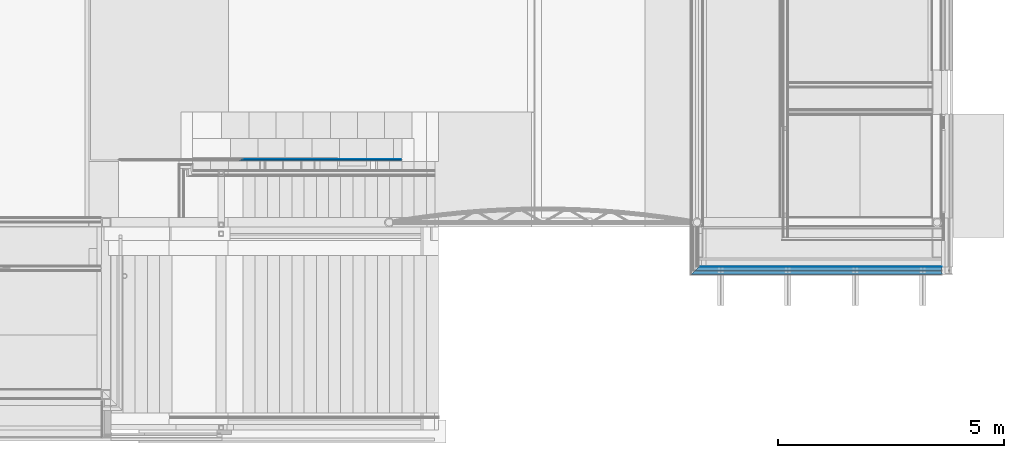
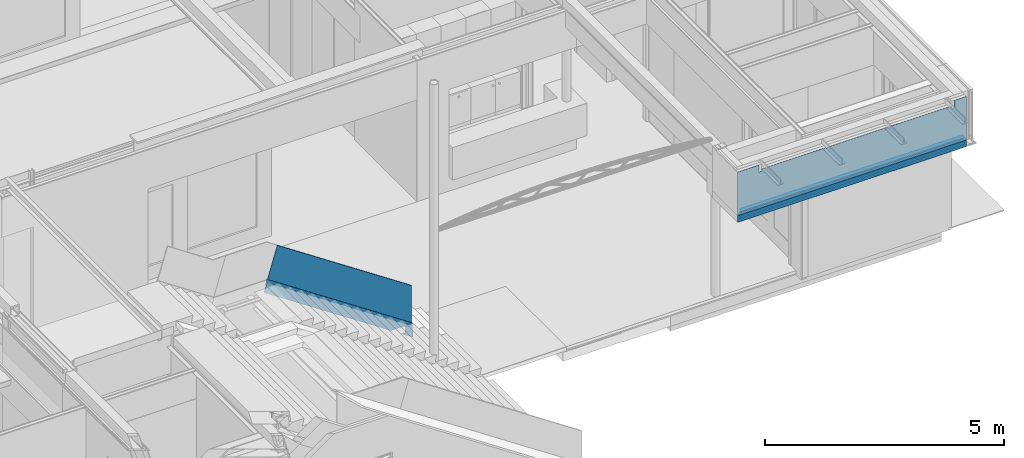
# One storey, part 62 of 165: 11 building element parts, 3 elements without a shape of their own.
"""IFC2X3 building model written with IfcOpenShell, lengths in millimetres."""

from ifc_helpers import new_model, entity, si_unit, converted_unit, derived_unit, money_unit, direction, frame, origin_with_axes, place, context, subcontext, project, spatial, faceted_brep, material, type_object, element, aggregate, save


model = new_model("IFC2X3")

# Units and contexts
model_context = context("Model", 3, precision=0.01, world=origin_with_axes(), true_north=direction((0.0, 1.0)))
body_context = subcontext(model_context, "Body", "Model", "MODEL_VIEW")
ifc_project = project(units=[si_unit("LENGTHUNIT", "METRE", prefix="MILLI"), si_unit("AREAUNIT", "SQUARE_METRE"), si_unit("VOLUMEUNIT", "CUBIC_METRE"), converted_unit("PLANEANGLEUNIT", "DEGREE", entity("IfcPlaneAngleMeasure", 0.0174532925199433), si_unit("PLANEANGLEUNIT", "RADIAN"), dimensions=[0, 0, 0, 0, 0, 0, 0]), money_unit("EUR"), converted_unit("TIMEUNIT", "Year", entity("IfcTimeMeasure", 31556926.0), si_unit("TIMEUNIT", "SECOND"), dimensions=[0, 0, 1, 0, 0, 0, 0]), si_unit("MASSUNIT", "GRAM", prefix="KILO"), si_unit("THERMODYNAMICTEMPERATUREUNIT", "DEGREE_CELSIUS"), si_unit("LUMINOUSINTENSITYUNIT", "LUMEN"), si_unit("ENERGYUNIT", "JOULE", prefix="MEGA"), derived_unit("THERMALCONDUCTANCEUNIT", [(si_unit("POWERUNIT", "WATT"), 1), (si_unit("LENGTHUNIT", "METRE"), -1), (si_unit("THERMODYNAMICTEMPERATUREUNIT", "KELVIN"), -1)]), derived_unit("SPECIFICHEATCAPACITYUNIT", [(si_unit("ENERGYUNIT", "JOULE"), 1), (si_unit("MASSUNIT", "GRAM", prefix="KILO"), -1), (si_unit("THERMODYNAMICTEMPERATUREUNIT", "KELVIN"), -1)]), derived_unit("MASSDENSITYUNIT", [(si_unit("MASSUNIT", "GRAM", prefix="KILO"), 1), (si_unit("VOLUMEUNIT", "CUBIC_METRE"), -1)])], contexts=[model_context])

# Site, building, storey
site_placement = place(None, origin_with_axes())
site = spatial("IfcSite", under=ifc_project, at=site_placement, Name="Site", CompositionType="ELEMENT")
building_placement = place(site_placement, origin_with_axes())
building = spatial("IfcBuilding", under=site, at=building_placement, Name="Naam gebouw", CompositionType="ELEMENT")
storey_placement = place(building_placement, origin_with_axes())
storey = spatial("IfcBuildingStorey", under=building, at=storey_placement, Name="Begane grond", CompositionType="ELEMENT", Elevation=0.0)

# Beam, building element parts
beam_type_1 = type_object("IfcBeamType", Name="41 Overgang stucwerk wand-plafond 176 x 176", PredefinedType="BEAM")
beam_1_placement = place(storey_placement, frame((24539.99877127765, 3599.999999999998, 2756.0), z_axis=(0.0, 0.0, 1.0), x_axis=(0.0, -1.0, 0.0)))
beam_1 = element("IfcBeam", 1, at=beam_1_placement, inside=storey, type_object=beam_type_1, Name="_Regenwaterafvoer-x", ObjectType="BEAM")
ifc_material_1 = material(Name="STO pleisterlaag")
building_element_part_1_placement = place(beam_1_placement, origin_with_axes())
building_element_part_1 = element("IfcBuildingElementPart", 2, at=building_element_part_1_placement, material=ifc_material_1, Name="STO pleisterlaag", context=body_context, shape_type="Brep", body=[
    faceted_brep([(173.0000000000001, 5360.00123095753, -173.0000000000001), (0.0, 5360.00123095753, -173.0000000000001), (0.0, 0.0, -173.0000000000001), (173.0000000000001, -173.0000000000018, -173.0000000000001), (173.0000000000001, 5360.00123095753, 0.0), (175.9999999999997, 5360.00123095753, 0.0), (175.9999999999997, 5360.00123095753, -176.0000000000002), (0.0, 5360.00123095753, -176.0000000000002), (0.0, 0.0, -176.0000000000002), (176.0000000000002, -176.0000000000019, -176.0000000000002), (176.0000000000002, -176.0000000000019, 0.0), (173.0000000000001, -173.0000000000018, 0.0)], [[[0, 1, 2, 3]], [[0, 4, 5, 6, 7, 1]], [[1, 7, 8, 2]], [[3, 2, 8, 9, 10, 11]], [[4, 0, 3, 11]], [[5, 4, 11, 10]], [[6, 5, 10, 9]], [[7, 6, 9, 8]]]),
])
ifc_material_2 = material(Name="STO weefsellaag")
building_element_part_2_placement = place(beam_1_placement, origin_with_axes())
building_element_part_2 = element("IfcBuildingElementPart", 3, at=building_element_part_2_placement, material=ifc_material_2, Name="STO weefsellaag", context=body_context, shape_type="Brep", body=[
    faceted_brep([(0.0, 5360.00123095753, -167.9999992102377), (0.0, 5360.00123095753, -173.0000000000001), (0.0, 0.0, -173.0000000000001), (0.0, 0.0, -167.9999992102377), (167.9999992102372, 5360.00123095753, -167.9999992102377), (167.9999992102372, 5360.00123095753, 0.0), (172.9999999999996, 5360.00123095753, 0.0), (172.9999999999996, 5360.00123095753, -173.0000000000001), (173.0000000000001, -173.0000000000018, -173.0000000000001), (173.0000000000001, -173.0000000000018, 0.0), (167.9999992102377, -167.9999992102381, 0.0), (167.9999992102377, -167.9999992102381, -167.9999992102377)], [[[0, 1, 2, 3]], [[0, 4, 5, 6, 7, 1]], [[1, 7, 8, 2]], [[3, 2, 8, 9, 10, 11]], [[4, 0, 3, 11]], [[5, 4, 11, 10]], [[6, 5, 10, 9]], [[7, 6, 9, 8]]]),
])
ifc_material_3 = material(Name="STO lijmlaag")
building_element_part_3_placement = place(beam_1_placement, origin_with_axes())
building_element_part_3 = element("IfcBuildingElementPart", 4, at=building_element_part_3_placement, material=ifc_material_3, Name="STO lijmlaag", context=body_context, shape_type="Brep", body=[
    faceted_brep([(0.0, 5360.00123095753, -88.00000107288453), (88.00000107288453, 5360.00123095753, -88.00000107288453), (88.00000107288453, -88.00000107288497, -88.00000107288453), (0.0, 0.0, -88.00000107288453), (0.0, 5360.00123095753, -84.00000000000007), (83.99999999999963, 5360.00123095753, -84.00000000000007), (83.99999999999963, 5360.00123095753, 0.0), (88.00000107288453, 5360.00123095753, 0.0), (88.00000107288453, -88.00000107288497, 0.0), (84.00000000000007, -83.99999999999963, 0.0), (84.00000000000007, -83.99999999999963, -84.00000000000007), (0.0, 0.0, -84.00000000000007)], [[[0, 1, 2, 3]], [[0, 4, 5, 6, 7, 1]], [[1, 7, 8, 2]], [[3, 2, 8, 9, 10, 11]], [[4, 0, 3, 11]], [[5, 4, 11, 10]], [[6, 5, 10, 9]], [[7, 6, 9, 8]]]),
])
ifc_material_4 = material(Name="Isolatie - STO EPS")
building_element_part_4_placement = place(beam_1_placement, origin_with_axes())
building_element_part_4 = element("IfcBuildingElementPart", 5, at=building_element_part_4_placement, material=ifc_material_4, Name="Isolatie - STO EPS", context=body_context, shape_type="Brep", body=[
    faceted_brep([(0.0, 5360.00123095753, -88.00000107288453), (0.0, 5360.00123095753, -168.0000000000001), (0.0, 0.0, -168.0000000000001), (0.0, 0.0, -88.00000107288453), (88.00000107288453, 5360.00123095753, -88.00000107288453), (88.00000107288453, 5360.00123095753, -168.0000000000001), (88.00000107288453, -88.00000107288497, -168.0000000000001), (88.00000107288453, -88.00000107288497, -88.00000107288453)], [[[0, 1, 2, 3]], [[0, 4, 5, 1]], [[1, 5, 6, 2]], [[3, 2, 6, 7]], [[4, 0, 3, 7]], [[5, 4, 7, 6]]]),
])
building_element_part_5_placement = place(beam_1_placement, origin_with_axes())
building_element_part_5 = element("IfcBuildingElementPart", 6, at=building_element_part_5_placement, material=ifc_material_4, Name="Isolatie - STO EPS", context=body_context, shape_type="Brep", body=[
    faceted_brep([(167.9999999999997, 5360.00123095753, 0.0), (87.99999999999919, 5360.00123095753, 0.0), (87.99999999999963, -88.00000000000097, 0.0), (168.0000000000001, -168.0000000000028, 0.0), (167.9999999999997, 5360.00123095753, -168.0000000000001), (87.99999999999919, 5360.00123095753, -168.0000000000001), (87.99999999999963, -88.00000000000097, -168.0000000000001), (168.0000000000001, -168.0000000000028, -168.0000000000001)], [[[0, 1, 2, 3]], [[0, 4, 5, 1]], [[1, 5, 6, 2]], [[3, 2, 6, 7]], [[4, 0, 3, 7]], [[5, 4, 7, 6]]]),
])
building_element_part_6_placement = place(beam_1_placement, origin_with_axes())
building_element_part_6 = element("IfcBuildingElementPart", 7, at=building_element_part_6_placement, material=ifc_material_3, Name="STO lijmlaag", context=body_context, shape_type="Brep", body=[
    faceted_brep([(3.999999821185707, 5360.00123095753, 0.0), (0.0, 5360.00123095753, 0.0), (0.0, 0.0, 0.0), (3.999999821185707, -3.999999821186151, 0.0), (3.999999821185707, 5360.00123095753, -3.999999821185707), (0.0, 5360.00123095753, -3.999999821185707), (0.0, 0.0, -3.999999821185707), (3.999999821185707, -3.999999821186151, -3.999999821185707)], [[[0, 1, 2, 3]], [[0, 4, 5, 1]], [[1, 5, 6, 2]], [[3, 2, 6, 7]], [[4, 0, 3, 7]], [[5, 4, 7, 6]]]),
])
building_element_part_7_placement = place(beam_1_placement, origin_with_axes())
building_element_part_7 = element("IfcBuildingElementPart", 8, at=building_element_part_7_placement, material=ifc_material_4, Name="Isolatie - STO EPS", context=body_context, shape_type="Brep", body=[
    faceted_brep([(0.0, 5360.00123095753, -3.999999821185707), (0.0, 5360.00123095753, -84.00000000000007), (0.0, 0.0, -84.00000000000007), (0.0, 0.0, -3.999999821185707), (3.999999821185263, 5360.00123095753, -3.999999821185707), (3.999999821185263, 5360.00123095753, 0.0), (83.99999999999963, 5360.00123095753, 0.0), (83.99999999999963, 5360.00123095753, -84.00000000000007), (84.00000000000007, -83.99999999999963, -84.00000000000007), (84.00000000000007, -83.99999999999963, 0.0), (3.999999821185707, -3.999999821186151, 0.0), (3.999999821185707, -3.999999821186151, -3.999999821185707)], [[[0, 1, 2, 3]], [[0, 4, 5, 6, 7, 1]], [[1, 7, 8, 2]], [[3, 2, 8, 9, 10, 11]], [[4, 0, 3, 11]], [[5, 4, 11, 10]], [[6, 5, 10, 9]], [[7, 6, 9, 8]]]),
])
aggregate(beam_1, [building_element_part_1, building_element_part_2, building_element_part_3, building_element_part_4, building_element_part_5, building_element_part_6, building_element_part_7])

# Wall, building element part
wall_type = type_object("IfcWallType", Name="21 STO Buitengevelisolatie 160 390", PredefinedType="NOTDEFINED")
wall_placement = place(storey_placement, frame((29899.99999999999, 3599.999999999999, 2610.0), z_axis=(0.0, 0.0, 1.0), x_axis=(-1.0, 0.0, 0.0)))
wall = element("IfcWall", 9, at=wall_placement, inside=storey, type_object=wall_type, Name="21_Wand-x")
building_element_part_8_placement = place(wall_placement, origin_with_axes())
building_element_part_8 = element("IfcBuildingElementPart", 10, at=building_element_part_8_placement, material=ifc_material_2, Name="STO weefsellaag", context=body_context, shape_type="Brep", body=[
    faceted_brep([(0.0, 172.9999985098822, 1250.0), (-2.235182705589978e-06, 173.0000000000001, 145.9999999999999), (-2.235182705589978e-06, 167.9999992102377, 145.9999999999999), (0.0, 167.9999997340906, 1250.0), (5533.000960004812, 173.0000000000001, 1249.999999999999), (5533.001228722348, 173.0000000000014, 145.9999999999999), (286.9998248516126, 173.0000000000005, 1249.999999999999), (286.9998248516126, 173.0000000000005, 1067.0), (349.9998248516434, 173.0000000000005, 1067.0), (350.0000000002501, 173.0000000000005, 1110.000000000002), (490.0000000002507, 173.0000000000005, 1110.000000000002), (490.0000000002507, 173.0000000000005, 1125.000000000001), (427.5000000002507, 173.0000000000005, 1125.000000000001), (427.5000000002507, 173.0000000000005, 1130.0), (1897.50000000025, 173.0000000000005, 1130.0), (1897.50000000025, 173.0000000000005, 1125.000000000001), (1835.00000000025, 173.0000000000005, 1125.000000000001), (1835.00000000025, 173.0000000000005, 1110.000000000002), (1975.00000000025, 173.0000000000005, 1110.000000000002), (1975.00000000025, 173.0000000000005, 1125.000000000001), (1912.50000000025, 173.0000000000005, 1125.000000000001), (1912.50000000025, 173.0000000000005, 1130.0), (3387.500961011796, 173.0000000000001, 1130.0), (3387.500961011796, 173.0000000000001, 1125.000000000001), (3325.000961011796, 173.0000000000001, 1125.000000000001), (3325.000961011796, 173.0000000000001, 1110.000000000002), (3465.000961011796, 173.0000000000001, 1110.000000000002), (3465.000961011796, 173.0000000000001, 1125.000000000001), (3402.500961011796, 173.0000000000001, 1125.000000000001), (3402.500961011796, 173.0000000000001, 1130.0), (4872.500960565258, 173.0000000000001, 1130.0), (4872.500960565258, 173.0000000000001, 1125.000000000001), (4810.000960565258, 173.0000000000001, 1125.000000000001), (4810.000960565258, 173.0000000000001, 1110.000000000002), (4950.000960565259, 173.0000000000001, 1110.000000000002), (4950.000960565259, 173.0000000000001, 1067.0), (5013.000960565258, 173.0000000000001, 1067.0), (5013.000960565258, 173.0000000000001, 1249.999999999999), (5533.001228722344, 168.0000000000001, 145.9999999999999), (5528.001227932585, 167.999999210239, 145.9999999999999), (5533.000960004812, 168.0000000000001, 1249.999999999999), (5013.000960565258, 168.0000000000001, 1249.999999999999), (5013.000960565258, 168.0000000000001, 1067.0), (4950.000960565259, 168.0000000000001, 1067.0), (4950.000960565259, 168.0000000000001, 1110.000000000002), (4810.000960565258, 168.0000000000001, 1110.000000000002), (4810.000960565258, 168.0000000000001, 1125.000000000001), (4872.500960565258, 168.0000000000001, 1125.000000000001), (4872.500960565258, 168.0000000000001, 1130.0), (3402.500961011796, 168.0000000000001, 1130.0), (3402.500961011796, 168.0000000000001, 1125.000000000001), (3465.000961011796, 168.0000000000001, 1125.000000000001), (3465.000961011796, 168.0000000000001, 1110.000000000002), (3325.000961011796, 168.0000000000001, 1110.000000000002), (3325.000961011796, 168.0000000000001, 1125.000000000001), (3387.500961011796, 168.0000000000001, 1125.000000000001), (3387.500961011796, 168.0000000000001, 1130.0), (1912.50000000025, 168.0000000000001, 1130.0), (1912.50000000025, 168.0000000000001, 1125.000000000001), (1975.00000000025, 168.0000000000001, 1125.000000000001), (1975.00000000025, 168.0000000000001, 1110.000000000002), (1835.00000000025, 168.0000000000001, 1110.000000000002), (1835.00000000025, 168.0000000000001, 1125.000000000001), (1897.50000000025, 168.0000000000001, 1125.000000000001), (1897.50000000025, 168.0000000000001, 1130.0), (427.5000000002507, 168.0000000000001, 1130.0), (427.5000000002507, 168.0000000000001, 1125.000000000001), (490.0000000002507, 168.0000000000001, 1125.000000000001), (490.0000000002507, 168.0000000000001, 1110.000000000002), (350.0000000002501, 168.0000000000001, 1110.000000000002), (349.9998299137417, 168.0000000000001, 1067.0), (286.9998299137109, 168.0000000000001, 1067.0), (286.9998299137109, 168.0000000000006, 1249.999999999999)], [[[0, 1, 2, 3]], [[4, 5, 1, 0, 6, 7, 8, 9, 10, 11, 12, 13, 14, 15, 16, 17, 18, 19, 20, 21, 22, 23, 24, 25, 26, 27, 28, 29, 30, 31, 32, 33, 34, 35, 36, 37]], [[38, 39, 2, 1, 5]], [[3, 2, 39, 38, 40, 41, 42, 43, 44, 45, 46, 47, 48, 49, 50, 51, 52, 53, 54, 55, 56, 57, 58, 59, 60, 61, 62, 63, 64, 65, 66, 67, 68, 69, 70, 71, 72]], [[3, 72, 6, 0]], [[4, 40, 38, 5]], [[71, 7, 6, 72]], [[70, 8, 7, 71]], [[69, 9, 8, 70]], [[9, 69, 68, 10]], [[68, 67, 11, 10]], [[67, 66, 12, 11]], [[66, 65, 13, 12]], [[13, 65, 64, 14]], [[14, 64, 63, 15]], [[63, 62, 16, 15]], [[62, 61, 17, 16]], [[61, 60, 18, 17]], [[60, 59, 19, 18]], [[59, 58, 20, 19]], [[58, 57, 21, 20]], [[56, 22, 21, 57]], [[22, 56, 55, 23]], [[55, 54, 24, 23]], [[54, 53, 25, 24]], [[53, 52, 26, 25]], [[52, 51, 27, 26]], [[51, 50, 28, 27]], [[50, 49, 29, 28]], [[48, 30, 29, 49]], [[30, 48, 47, 31]], [[47, 46, 32, 31]], [[46, 45, 33, 32]], [[45, 44, 34, 33]], [[34, 44, 43, 35]], [[36, 35, 43, 42]], [[37, 36, 42, 41]], [[40, 4, 37, 41]]]),
    faceted_brep([(4887.500960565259, 173.0000000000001, 1130.0), (4887.500960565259, 168.0000000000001, 1130.0), (4950.000960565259, 168.0000000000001, 1130.0), (4950.000960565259, 173.0000000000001, 1130.0), (4887.500960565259, 168.0000000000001, 1125.000000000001), (4887.500960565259, 173.0000000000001, 1125.000000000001), (4950.000960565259, 168.0000000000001, 1125.000000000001), (4950.000960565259, 173.0000000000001, 1125.000000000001)], [[[0, 1, 2, 3]], [[4, 1, 0, 5]], [[4, 6, 2, 1]], [[6, 7, 3, 2]], [[5, 0, 3, 7]], [[6, 4, 5, 7]]]),
    faceted_brep([(350.0000000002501, 173.0000000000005, 1125.000000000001), (350.0000000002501, 168.0000000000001, 1125.000000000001), (350.0000000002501, 168.0000000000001, 1130.0), (350.0000000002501, 173.0000000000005, 1130.0), (412.5000000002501, 168.0000000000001, 1125.000000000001), (412.5000000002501, 173.0000000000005, 1125.000000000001), (412.5000000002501, 168.0000000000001, 1130.0), (412.5000000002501, 173.0000000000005, 1130.0)], [[[0, 1, 2, 3]], [[4, 1, 0, 5]], [[4, 6, 2, 1]], [[6, 7, 3, 2]], [[5, 0, 3, 7]], [[7, 6, 4, 5]]]),
])
aggregate(wall, [building_element_part_8])

# Beam, building element parts
beam_type_2 = type_object("IfcBeamType", Name="34 Glas balustrade binnen 50 x 1800", PredefinedType="BEAM")
beam_2_placement = place(storey_placement, frame((17980.00001687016, 5930.000235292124, 719.9999999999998), z_axis=(0.0, 0.0, 1.0), x_axis=(1.118256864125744e-08, 1.0, 0.0)))
beam_2 = element("IfcBeam", 11, at=beam_2_placement, inside=storey, type_object=beam_type_2, Name="_Regenwaterafvoer-x", ObjectType="BEAM")
ifc_material_5 = material(Name="Metaal - Staal C")
building_element_part_9_placement = place(beam_2_placement, origin_with_axes())
building_element_part_9 = element("IfcBuildingElementPart", 12, at=building_element_part_9_placement, material=ifc_material_5, Name="Metaal - Staal C", context=body_context, shape_type="Brep", body=[
    faceted_brep([(44.99996524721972, 25.98076084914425, -120.8913740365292), (44.99996524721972, 25.98076084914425, -96.85436553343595), (44.99800116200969, 3538.763683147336, 2244.999999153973), (44.99800116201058, 3544.819195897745, 2224.999999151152), (44.99800116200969, 207.3191971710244, 0.0), (44.99800116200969, 180.0000005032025, 0.0), (44.99800116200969, 180.0000005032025, -18.21279777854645), (45.52328604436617, 25.6143277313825, 17.07621848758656), (44.99996524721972, 25.98076084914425, 17.32142407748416), (44.99996524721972, 25.98076084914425, -79.10303510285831), (44.99996524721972, 25.98076084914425, -84.83586128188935), (44.99996524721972, 25.98076084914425, -132.9098782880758), (44.99996524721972, 25.98076084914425, -162.6794919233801), (45.52328604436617, 25.6143277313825, -162.9237806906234), (19.73936080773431, 28.19077576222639, -95.38193910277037), (14.99996524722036, 25.98075895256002, -96.85526741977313), (14.99999999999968, 3538.763685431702, 2245.000000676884), (40.26056940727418, 28.1907770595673, -95.38193823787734), (35.20941035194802, 29.54423070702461, -94.47963580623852), (29.99996499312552, 29.99999778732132, -94.1757910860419), (25.80636152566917, 29.63310475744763, -94.42038643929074), (24.79051969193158, 29.54423004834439, -94.47963624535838), (44.99800116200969, 3535.73592677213, 2254.999999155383), (44.99800116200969, 3534.291687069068, 2259.769998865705), (44.99800116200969, 3509.999997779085, 2339.999998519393), (54.99800116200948, 3509.99999701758, 2339.999998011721), (54.99800116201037, 3555.416342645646, 2189.999997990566), (44.99800116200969, 3555.416343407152, 2189.999998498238), (44.99800116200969, 3547.846952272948, 2214.999999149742), (15.00000000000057, 3547.846954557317, 2215.000000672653), (14.99999999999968, 3600.832691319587, 2039.999999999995), (4.999999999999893, 3600.832692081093, 2040.000000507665), (4.999999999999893, 3510.000000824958, 2340.000000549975), (15.00000000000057, 3510.000000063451, 2340.000000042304), (14.99999940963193, 3534.291689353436, 2259.770000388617), (15.00000000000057, 3535.735929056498, 2255.000000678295), (15.00000000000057, 3544.819198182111, 2225.000000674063), (14.99999999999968, 207.3191971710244, 0.0), (44.99800116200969, 270.4163456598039, 0.0), (54.99800116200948, 270.4163456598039, 0.0), (54.99800116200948, 180.0000006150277, 0.0), (14.99999999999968, 180.0000001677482, 0.0), (4.999999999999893, 180.0000000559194, 0.0), (4.999999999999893, 540.8326913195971, 0.0), (14.99999999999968, 540.8326913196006, 0.0), (14.99999999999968, 225.3469535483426, 0.0), (44.99800116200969, 225.3469535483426, 0.0), (54.99800116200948, 180.0000006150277, -60.27756336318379), (44.99800116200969, 180.0000005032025, -60.27756343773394), (44.99800116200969, 180.0000005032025, -30.23130203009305), (14.99999999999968, 180.0000001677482, -30.23130225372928), (14.99999999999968, 180.0000001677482, -179.9999999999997), (4.999999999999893, 180.0000000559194, -179.9999999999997), (14.99999999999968, 180.0000001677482, -18.21279800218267), (40.26056940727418, 28.1907770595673, -119.4189467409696), (14.99996524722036, 25.98075895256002, -120.8922759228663), (19.73936080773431, 28.19077576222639, -119.4189476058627), (24.79051969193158, 29.54423004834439, -118.5166447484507), (25.80636152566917, 29.63310475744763, -118.457394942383), (29.99996499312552, 29.99999778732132, -118.2127995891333), (35.20941035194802, 29.54423070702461, -118.5166443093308), (54.14996577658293, 17.61459857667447, 11.74306571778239), (54.99800116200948, 16.40347869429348, 10.93565246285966), (49.28359372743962, 22.98133229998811, 15.32088819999), (50.91447904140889, 21.35044719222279, 14.23363146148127), (52.69354244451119, 19.57138401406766, 13.04758934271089), (52.98129896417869, 19.28362753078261, 12.85575168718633), (53.78307297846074, 18.13857572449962, 12.09238381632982), (40.26056940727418, 28.1907770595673, -83.36343398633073), (40.26056940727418, 28.1907770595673, -131.4374509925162), (44.99800116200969, 0.0, -180.2775637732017), (44.99800116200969, 0.0, -179.9999991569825), (54.99800116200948, 0.0, -179.9999995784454), (54.99800116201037, 16.40347869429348, -169.0643471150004), (54.14996577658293, 17.61459857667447, -168.256933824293), (53.78307297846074, 18.13857572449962, -167.9076157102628), (52.98129896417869, 19.28362753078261, -167.1442478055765), (52.69354244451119, 19.57138401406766, -166.9524101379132), (50.91447904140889, 21.35044719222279, -165.7663679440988), (49.28359372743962, 22.98133229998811, -164.6791111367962), (19.73936080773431, 28.19077576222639, -83.36343485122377), (14.99996524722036, 25.98075895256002, -84.83676316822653), (35.20941035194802, 29.54423070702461, -82.46113155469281), (29.99996499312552, 29.99999778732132, -82.1572868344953), (25.80636152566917, 29.63310475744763, -82.40188218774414), (24.79051969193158, 29.54423004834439, -82.46113199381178), (54.99800116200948, 0.0, -180.2775637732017), (4.999999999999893, 16.40071843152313, -169.0661851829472), (4.999999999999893, 16.40071843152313, 10.93381228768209), (4.999999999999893, 270.8326913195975, -180.0000000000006), (4.999999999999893, 0.8326913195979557, -360.0000000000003), (4.999999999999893, 0.0, -360.0000000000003), (4.999999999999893, 0.0, -179.9999974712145), (10.71633714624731, 22.98132986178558, 15.32088657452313), (14.99996524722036, 25.98075895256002, 17.32052219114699), (5.849965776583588, 17.61459552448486, 11.74306368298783), (6.216858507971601, 18.13857271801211, 12.092381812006), (7.018632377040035, 19.28362462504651, 12.85574975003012), (9.085452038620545, 21.35044454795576, 14.2336296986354), (14.99996524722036, 25.98075895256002, -79.10393726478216), (19.73936080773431, 28.19077576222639, -131.4374518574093), (14.99996524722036, 25.98075895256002, -132.9107801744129), (35.20941035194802, 29.54423070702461, -130.5351485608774), (29.99996499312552, 29.99999778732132, -130.2313038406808), (25.80636152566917, 29.63310475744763, -130.4758991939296), (24.79051969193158, 29.54423004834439, -130.5351489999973), (14.99996524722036, 25.98075895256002, -162.6794919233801), (14.99999999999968, 0.0, -179.9999978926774), (14.99999999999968, 0.0, -360.0000000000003), (14.99999999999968, 0.8326913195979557, -360.0000000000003), (14.99999999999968, 270.8326913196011, -180.0000000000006), (10.71633714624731, 22.98132986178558, -164.6791111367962), (5.849965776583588, 17.61459552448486, -168.2569338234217), (9.085452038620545, 21.35044454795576, -165.7663679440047), (7.018632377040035, 19.28362462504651, -167.1442478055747), (6.216858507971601, 18.13857271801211, -167.9076157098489)], [[[0, 1, 2, 3, 4, 5, 6]], [[7, 8, 9, 10, 1, 0, 11, 12, 13]], [[14, 15, 16, 2, 1, 17, 18, 19, 20, 21]], [[22, 23, 24, 25, 26, 27, 28, 29, 30, 31, 32, 33, 34, 35], [2, 16, 36, 3]], [[36, 37, 4, 3]], [[38, 39, 40, 5, 4, 37, 41, 42, 43, 44, 45, 46]], [[5, 40, 47, 48, 49, 50, 51, 52, 42, 41, 53, 6]], [[54, 0, 6, 53, 55, 56, 57, 58, 59, 60]], [[61, 62, 25, 24, 8, 7, 63, 64, 65, 66, 67]], [[9, 8, 24, 23]], [[10, 9, 23, 22]], [[10, 68, 17, 1]], [[0, 54, 69, 11]], [[12, 11, 49, 48, 70, 71]], [[71, 72, 73, 74, 75, 76, 77, 78, 79, 13, 12]], [[63, 7, 13, 79]], [[80, 81, 15, 14]], [[15, 55, 53, 41, 37, 36, 16]], [[68, 82, 18, 17]], [[82, 83, 19, 18]], [[83, 84, 20, 19]], [[84, 85, 21, 20]], [[85, 80, 14, 21]], [[62, 73, 72, 86, 47, 40, 39, 26, 25]], [[26, 39, 38, 27]], [[27, 38, 46, 28]], [[28, 46, 45, 29]], [[29, 45, 44, 30]], [[30, 44, 43, 31]], [[87, 88, 32, 31, 43, 42, 52, 89, 90, 91, 92]], [[93, 94, 33, 32, 88, 95, 96, 97, 98]], [[94, 99, 34, 33]], [[99, 81, 35, 34]], [[68, 10, 22, 35, 81, 80, 85, 84, 83, 82]], [[70, 48, 47, 86]], [[100, 101, 50, 49, 11, 69, 102, 103, 104, 105]], [[106, 107, 108, 109, 110, 51, 50, 101]], [[52, 51, 110, 89]], [[56, 55, 101, 100]], [[57, 56, 100, 105]], [[58, 57, 105, 104]], [[59, 58, 104, 103]], [[60, 59, 103, 102]], [[54, 60, 102, 69]], [[73, 62, 61, 74]], [[64, 63, 79, 78]], [[65, 64, 78, 77]], [[66, 65, 77, 76]], [[67, 66, 76, 75]], [[61, 67, 75, 74]], [[72, 71, 70, 86]], [[94, 93, 111, 106, 101, 55, 15, 81, 99]], [[95, 88, 87, 112]], [[90, 89, 110, 109]], [[91, 90, 109, 108]], [[107, 92, 91, 108]], [[92, 107, 106, 111, 113, 114, 115, 112, 87]], [[96, 95, 112, 115]], [[97, 96, 115, 114]], [[98, 97, 114, 113]], [[93, 98, 113, 111]]]),
])
ifc_material_6 = material(Name="Glas")
building_element_part_10_placement = place(beam_2_placement, origin_with_axes())
building_element_part_10 = element("IfcBuildingElementPart", 13, at=building_element_part_10_placement, material=ifc_material_6, Name="Glas", context=body_context, shape_type="Brep", body=[
    faceted_brep([(39.99999940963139, 28.26059656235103, 18.84039770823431), (40.26056940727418, 28.1907770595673, 18.79385137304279), (44.99996524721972, 25.98076084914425, 17.32142407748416), (44.99800116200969, 3509.999997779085, 2339.999998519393), (39.99999940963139, 3509.999998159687, 2339.999998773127), (39.99999940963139, 28.26059656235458, -77.58406147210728), (40.26056940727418, 28.1907770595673, -77.6306078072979), (44.99996524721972, 25.98076084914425, -79.10303510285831), (44.99800116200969, 3534.291687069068, 2259.769998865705), (39.99999940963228, 3534.29168744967, 2259.769999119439)], [[[0, 1, 2, 3, 4]], [[1, 0, 5, 6]], [[2, 1, 6, 7]], [[2, 7, 8, 3]], [[8, 9, 4, 3]], [[5, 0, 4, 9]], [[6, 5, 9, 8, 7]]]),
])
building_element_part_11_placement = place(beam_2_placement, origin_with_axes())
building_element_part_11 = element("IfcBuildingElementPart", 14, at=building_element_part_11_placement, material=ifc_material_6, Name="Glas", context=body_context, shape_type="Brep", body=[
    faceted_brep([(39.99999585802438, 28.26059751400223, 963.5167154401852), (39.99999585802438, 28.26059751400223, 18.84040034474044), (39.99999585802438, 3509.999997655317, 2340.000000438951), (39.99999585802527, 3272.012805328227, 3126.018302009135), (38.25975153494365, 28.72689445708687, 962.8522916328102), (35.20941035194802, 29.54423070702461, 962.4148661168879), (35.20941035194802, 29.54423070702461, -76.72830537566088), (39.99999585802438, 28.26059751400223, -77.58406083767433), (39.99999585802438, 3534.291687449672, 2259.76999911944), (38.25954716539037, 3272.258533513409, 3125.206717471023), (19.99999211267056, 3534.291688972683, 2259.770000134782), (19.99999211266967, 3509.999999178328, 2340.000001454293), (19.99999211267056, 3272.012872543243, 3126.018086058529), (21.73997424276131, 3272.258534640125, 3125.206718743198), (25.80615720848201, 3272.588417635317, 3124.117187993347), (29.99976069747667, 3272.699503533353, 3123.750294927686), (34.19336418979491, 3272.588417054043, 3124.117187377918), (34.19356850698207, 29.63310528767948, 962.146979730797), (29.99996499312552, 29.99999778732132, -76.42446065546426), (29.99996499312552, 29.99999778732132, 961.9506246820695), (24.79051969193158, 29.54423004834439, -76.72830581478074), (19.99999211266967, 28.26061172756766, -77.58405136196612), (25.80636152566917, 29.63310475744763, -76.6690560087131), (19.99999211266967, 28.26061172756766, 18.84040982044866), (19.99999211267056, 28.26061172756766, 963.5166933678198), (21.74017861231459, 28.72689341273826, 962.8522916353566), (24.79051969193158, 29.54423004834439, 962.4148663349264), (25.80636152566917, 29.63310475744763, 962.1469797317)], [[[0, 1, 2, 3]], [[1, 0, 4, 5, 6, 7]], [[1, 7, 8, 2]], [[9, 3, 2, 8, 10, 11, 12, 13, 14, 15, 16]], [[0, 3, 9, 4]], [[9, 16, 17, 5, 4]], [[18, 6, 5, 17, 19]], [[20, 21, 10, 8, 7, 6, 18, 22]], [[21, 23, 11, 10]], [[24, 12, 11, 23]], [[12, 24, 25, 13]], [[14, 13, 25, 26, 27]], [[15, 14, 27, 19]], [[16, 15, 19, 17]], [[22, 18, 19, 27]], [[24, 23, 21, 20, 26, 25]], [[20, 22, 27, 26]]]),
])
aggregate(beam_2, [building_element_part_9, building_element_part_10, building_element_part_11])

save(model, "model.ifc")
